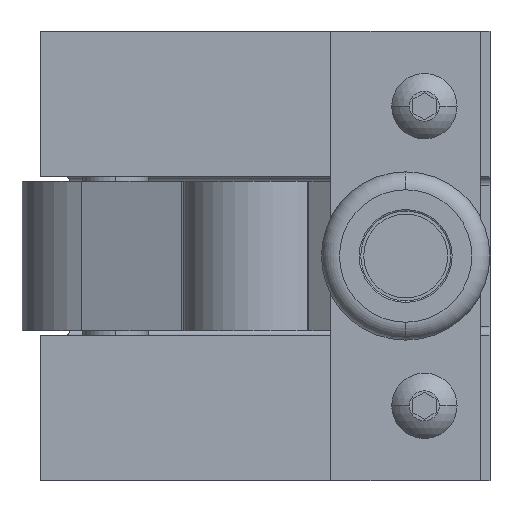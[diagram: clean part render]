
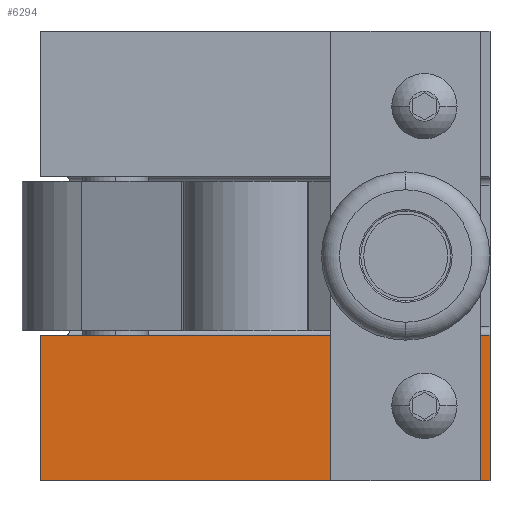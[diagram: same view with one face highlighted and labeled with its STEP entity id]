
A CAD part, left-side view. The second image highlights one B-rep face of the part: STEP entity #6294.
In plain terms, the highlighted planar face has unit normal (-1, 0, 0).
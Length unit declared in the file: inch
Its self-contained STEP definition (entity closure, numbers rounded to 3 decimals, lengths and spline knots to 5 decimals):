
#6294 = ADVANCED_FACE ( 'NONE', ( #26321, #26194 ), #26317, .T. ) ;
#6295 = EDGE_LOOP ( 'NONE', ( #6296, #6300 ) ) ;
#6296 = ORIENTED_EDGE ( 'NONE', *, *, #6297, .F. ) ;
#6297 = EDGE_CURVE ( 'NONE', #6298, #6299, #26316, .T. ) ;
#6298 = VERTEX_POINT ( 'NONE', #26307 ) ;
#6299 = VERTEX_POINT ( 'NONE', #26306 ) ;
#6300 = ORIENTED_EDGE ( 'NONE', *, *, #6301, .F. ) ;
#6301 = EDGE_CURVE ( 'NONE', #6299, #6298, #26304, .T. ) ;
#6303 = EDGE_LOOP ( 'NONE', ( #6304, #6387, #6390, #6393 ) ) ;
#6304 = ORIENTED_EDGE ( 'NONE', *, *, #6305, .F. ) ;
#6305 = EDGE_CURVE ( 'NONE', #6306, #6386, #26305, .T. ) ;
#6306 = VERTEX_POINT ( 'NONE', #26296 ) ;
#6386 = VERTEX_POINT ( 'NONE', #26995 ) ;
#6387 = ORIENTED_EDGE ( 'NONE', *, *, #6388, .F. ) ;
#6388 = EDGE_CURVE ( 'NONE', #6389, #6306, #26994, .T. ) ;
#6389 = VERTEX_POINT ( 'NONE', #26990 ) ;
#6390 = ORIENTED_EDGE ( 'NONE', *, *, #6391, .T. ) ;
#6391 = EDGE_CURVE ( 'NONE', #6389, #6392, #26989, .T. ) ;
#6392 = VERTEX_POINT ( 'NONE', #26985 ) ;
#6393 = ORIENTED_EDGE ( 'NONE', *, *, #6394, .T. ) ;
#6394 = EDGE_CURVE ( 'NONE', #6392, #6386, #26983, .T. ) ;
#26194 = FACE_OUTER_BOUND ( 'NONE', #6303, .T. ) ;
#26296 = CARTESIAN_POINT ( 'NONE',  ( -1.82852, 1.32452, -0.23742 ) ) ;
#26297 = DIRECTION ( 'NONE',  ( 0., -1., 0. ) ) ;
#26298 = VECTOR ( 'NONE', #26297, 39.37008 ) ;
#26299 = CARTESIAN_POINT ( 'NONE',  ( -1.82852, -1.67548, -0.23742 ) ) ;
#26300 = DIRECTION ( 'NONE',  ( 0., 0., 1. ) ) ;
#26301 = DIRECTION ( 'NONE',  ( -1., 0., 0. ) ) ;
#26302 = CARTESIAN_POINT ( 'NONE',  ( -1.82852, -1.23748, -0.70742 ) ) ;
#26303 = AXIS2_PLACEMENT_3D ( 'NONE', #26302, #26301, #26300 ) ;
#26304 = CIRCLE ( 'NONE', #26303, 0.125 ) ;
#26305 = LINE ( 'NONE', #26299, #26298 ) ;
#26306 = CARTESIAN_POINT ( 'NONE',  ( -1.82852, -1.23748, -0.83242 ) ) ;
#26307 = CARTESIAN_POINT ( 'NONE',  ( -1.82852, -1.23748, -0.58242 ) ) ;
#26308 = DIRECTION ( 'NONE',  ( 0., 0., 1. ) ) ;
#26309 = DIRECTION ( 'NONE',  ( -1., 0., 0. ) ) ;
#26310 = CARTESIAN_POINT ( 'NONE',  ( -1.82852, -1.23748, -0.70742 ) ) ;
#26311 = AXIS2_PLACEMENT_3D ( 'NONE', #26310, #26309, #26308 ) ;
#26312 = DIRECTION ( 'NONE',  ( 0., 0., 1. ) ) ;
#26313 = DIRECTION ( 'NONE',  ( -1., 0., 0. ) ) ;
#26314 = CARTESIAN_POINT ( 'NONE',  ( -1.82852, -1.67548, -1.20742 ) ) ;
#26315 = AXIS2_PLACEMENT_3D ( 'NONE', #26314, #26313, #26312 ) ;
#26316 = CIRCLE ( 'NONE', #26311, 0.125 ) ;
#26317 = PLANE ( 'NONE',  #26315 ) ;
#26321 = FACE_BOUND ( 'NONE', #6295, .T. ) ;
#26980 = DIRECTION ( 'NONE',  ( 0., 0., 1. ) ) ;
#26981 = VECTOR ( 'NONE', #26980, 39.37008 ) ;
#26982 = CARTESIAN_POINT ( 'NONE',  ( -1.82852, -1.67548, -1.20742 ) ) ;
#26983 = LINE ( 'NONE', #26982, #26981 ) ;
#26985 = CARTESIAN_POINT ( 'NONE',  ( -1.82852, -1.67548, -1.20742 ) ) ;
#26986 = DIRECTION ( 'NONE',  ( 0., -1., 0. ) ) ;
#26987 = VECTOR ( 'NONE', #26986, 39.37008 ) ;
#26988 = CARTESIAN_POINT ( 'NONE',  ( -1.82852, -1.67548, -1.20742 ) ) ;
#26989 = LINE ( 'NONE', #26988, #26987 ) ;
#26990 = CARTESIAN_POINT ( 'NONE',  ( -1.82852, 1.32452, -1.20742 ) ) ;
#26991 = DIRECTION ( 'NONE',  ( 0., 0., 1. ) ) ;
#26992 = VECTOR ( 'NONE', #26991, 39.37008 ) ;
#26993 = CARTESIAN_POINT ( 'NONE',  ( -1.82852, 1.32452, -1.20742 ) ) ;
#26994 = LINE ( 'NONE', #26993, #26992 ) ;
#26995 = CARTESIAN_POINT ( 'NONE',  ( -1.82852, -1.67548, -0.23742 ) ) ;
